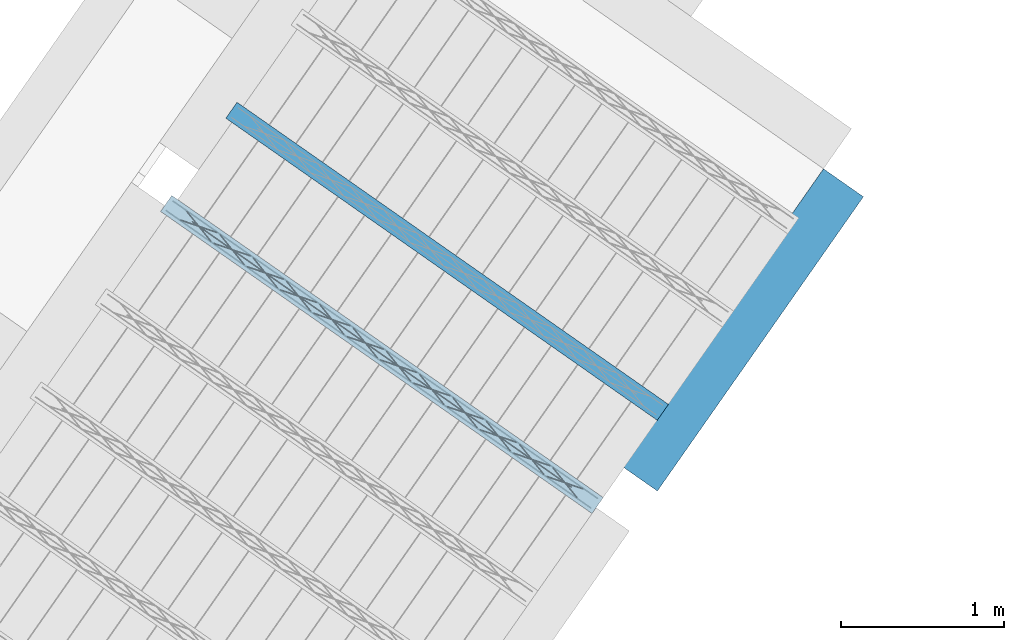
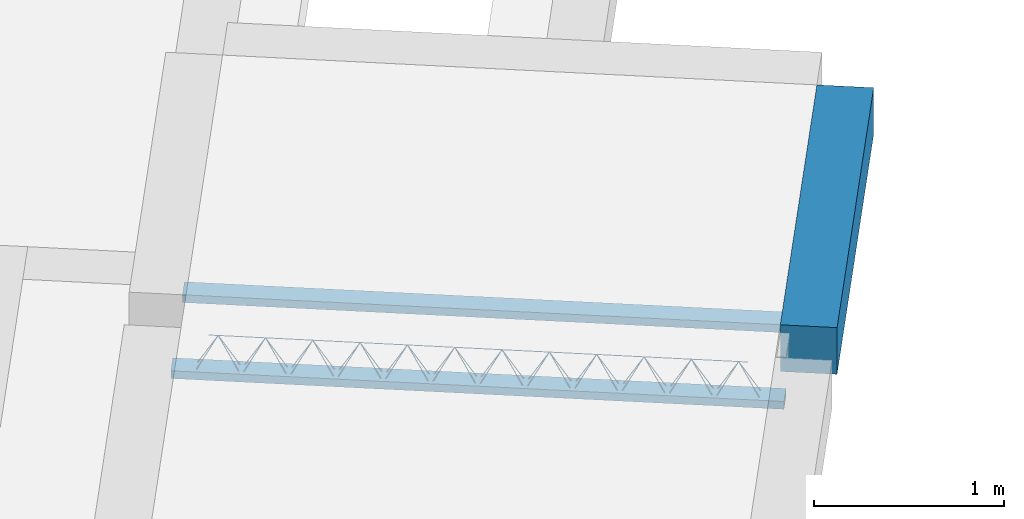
# One storey, part 12 of 46: 3 beams.
"""IFC2X3 building model written with IfcOpenShell, lengths in metres."""

from ifc_helpers import new_model, entity, si_unit, converted_unit, derived_unit, direction, frame, frame_2d, origin, origin_2d_with_axis, place, context, subcontext, project, spatial, rectangle, circle, extrude, material, type_object, element, save


model = new_model("IFC2X3")

# Units and contexts
model_context = context("Model", 3, precision=1e-05, world=origin(), true_north=direction((6.123031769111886e-17, 1.0)))
body_context = subcontext(model_context, "Body", "Model", "MODEL_VIEW")
ifc_project = project(units=[si_unit("LENGTHUNIT", "METRE"), si_unit("AREAUNIT", "SQUARE_METRE"), si_unit("VOLUMEUNIT", "CUBIC_METRE"), converted_unit("PLANEANGLEUNIT", "DEGREE", entity("IfcPlaneAngleMeasure", 0.017453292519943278), si_unit("PLANEANGLEUNIT", "RADIAN"), dimensions=[0, 0, 0, 0, 0, 0, 0]), si_unit("MASSUNIT", "GRAM", prefix="KILO"), derived_unit("MASSDENSITYUNIT", [(si_unit("MASSUNIT", "GRAM", prefix="KILO"), 1), (si_unit("LENGTHUNIT", "METRE"), -3)]), derived_unit("IONCONCENTRATIONUNIT", [(si_unit("MASSUNIT", "GRAM", prefix="KILO"), 1), (si_unit("LENGTHUNIT", "METRE"), -3)]), derived_unit("MOMENTOFINERTIAUNIT", [(si_unit("LENGTHUNIT", "METRE"), 4)]), si_unit("TIMEUNIT", "SECOND"), si_unit("FREQUENCYUNIT", "HERTZ"), si_unit("THERMODYNAMICTEMPERATUREUNIT", "DEGREE_CELSIUS"), derived_unit("THERMALTRANSMITTANCEUNIT", [(si_unit("MASSUNIT", "GRAM", prefix="KILO"), 1), (si_unit("THERMODYNAMICTEMPERATUREUNIT", "KELVIN"), -1), (si_unit("TIMEUNIT", "SECOND"), -3)]), derived_unit("THERMALCONDUCTANCEUNIT", [(si_unit("MASSUNIT", "GRAM", prefix="KILO"), 1), (si_unit("THERMODYNAMICTEMPERATUREUNIT", "KELVIN"), -1), (si_unit("TIMEUNIT", "SECOND"), -3), (si_unit("LENGTHUNIT", "METRE"), 1)]), derived_unit("VOLUMETRICFLOWRATEUNIT", [(si_unit("LENGTHUNIT", "METRE", prefix="DECI"), 3), (si_unit("TIMEUNIT", "SECOND"), -1)]), derived_unit("MASSFLOWRATEUNIT", [(si_unit("MASSUNIT", "GRAM", prefix="KILO"), 1), (si_unit("TIMEUNIT", "SECOND"), -1)]), derived_unit("ROTATIONALFREQUENCYUNIT", [(si_unit("TIMEUNIT", "SECOND"), -1)]), si_unit("ELECTRICCURRENTUNIT", "AMPERE"), si_unit("ELECTRICVOLTAGEUNIT", "VOLT"), si_unit("POWERUNIT", "WATT"), si_unit("FORCEUNIT", "NEWTON", prefix="KILO"), si_unit("ILLUMINANCEUNIT", "LUX"), si_unit("LUMINOUSFLUXUNIT", "LUMEN"), si_unit("LUMINOUSINTENSITYUNIT", "CANDELA"), si_unit("ENERGYUNIT", "JOULE"), derived_unit("USERDEFINED", [(si_unit("MASSUNIT", "GRAM", prefix="KILO"), -1), (si_unit("LENGTHUNIT", "METRE"), -2), (si_unit("TIMEUNIT", "SECOND"), 3), (si_unit("LUMINOUSFLUXUNIT", "LUMEN"), 1)]), derived_unit("USERDEFINED", [(si_unit("MASSUNIT", "GRAM", prefix="KILO"), 1), (si_unit("TIMEUNIT", "SECOND"), -3), (si_unit("LENGTHUNIT", "METRE"), 3), (si_unit("ELECTRICCURRENTUNIT", "AMPERE"), -2)]), derived_unit("SOUNDPOWERUNIT", [(si_unit("MASSUNIT", "GRAM", prefix="KILO"), 1), (si_unit("TIMEUNIT", "SECOND"), -3), (si_unit("LENGTHUNIT", "METRE"), 2)]), derived_unit("SOUNDPRESSUREUNIT", [(si_unit("MASSUNIT", "GRAM", prefix="KILO"), 1), (si_unit("LENGTHUNIT", "METRE"), -1), (si_unit("TIMEUNIT", "SECOND"), -2)]), derived_unit("LINEARVELOCITYUNIT", [(si_unit("LENGTHUNIT", "METRE"), 1), (si_unit("TIMEUNIT", "SECOND"), -1)]), si_unit("PRESSUREUNIT", "PASCAL"), derived_unit("USERDEFINED", [(si_unit("MASSUNIT", "GRAM", prefix="KILO"), 1), (si_unit("LENGTHUNIT", "METRE"), -2), (si_unit("TIMEUNIT", "SECOND"), -2)]), derived_unit("LINEARFORCEUNIT", [(si_unit("MASSUNIT", "GRAM", prefix="KILO"), 1), (si_unit("TIMEUNIT", "SECOND"), -2)]), derived_unit("PLANARFORCEUNIT", [(si_unit("MASSUNIT", "GRAM", prefix="KILO"), 1), (si_unit("LENGTHUNIT", "METRE"), -1), (si_unit("TIMEUNIT", "SECOND"), -2)]), derived_unit("SPECIFICHEATCAPACITYUNIT", [(si_unit("THERMODYNAMICTEMPERATUREUNIT", "KELVIN"), -1), (si_unit("LENGTHUNIT", "METRE"), 2), (si_unit("TIMEUNIT", "SECOND"), -2)]), derived_unit("HEATFLUXDENSITYUNIT", [(si_unit("MASSUNIT", "GRAM", prefix="KILO"), 1), (si_unit("TIMEUNIT", "SECOND"), -3)]), derived_unit("HEATINGVALUEUNIT", [(si_unit("LENGTHUNIT", "METRE"), 2), (si_unit("TIMEUNIT", "SECOND"), -2)]), derived_unit("VAPORPERMEABILITYUNIT", [(si_unit("LENGTHUNIT", "METRE"), -1), (si_unit("TIMEUNIT", "SECOND"), 1)]), derived_unit("DYNAMICVISCOSITYUNIT", [(si_unit("MASSUNIT", "GRAM", prefix="KILO"), 1), (si_unit("TIMEUNIT", "SECOND"), -1), (si_unit("LENGTHUNIT", "METRE"), -1)]), derived_unit("THERMALEXPANSIONCOEFFICIENTUNIT", [(si_unit("THERMODYNAMICTEMPERATUREUNIT", "KELVIN"), -1)]), derived_unit("MODULUSOFELASTICITYUNIT", [(si_unit("MASSUNIT", "GRAM", prefix="KILO"), 1), (si_unit("LENGTHUNIT", "METRE"), -1), (si_unit("TIMEUNIT", "SECOND"), -2)]), derived_unit("ISOTHERMALMOISTURECAPACITYUNIT", [(si_unit("MASSUNIT", "GRAM", prefix="KILO"), -1), (si_unit("LENGTHUNIT", "METRE"), 3)]), derived_unit("MOISTUREDIFFUSIVITYUNIT", [(si_unit("TIMEUNIT", "SECOND"), -1), (si_unit("LENGTHUNIT", "METRE"), 2)]), derived_unit("MASSPERLENGTHUNIT", [(si_unit("MASSUNIT", "GRAM", prefix="KILO"), 1), (si_unit("LENGTHUNIT", "METRE"), -1)]), derived_unit("THERMALRESISTANCEUNIT", [(si_unit("MASSUNIT", "GRAM", prefix="KILO"), -1), (si_unit("TIMEUNIT", "SECOND"), 3), (si_unit("THERMODYNAMICTEMPERATUREUNIT", "KELVIN"), 1)]), derived_unit("ACCELERATIONUNIT", [(si_unit("LENGTHUNIT", "METRE"), 1), (si_unit("TIMEUNIT", "SECOND"), -2)]), derived_unit("ANGULARVELOCITYUNIT", [(si_unit("TIMEUNIT", "SECOND"), -1), (si_unit("PLANEANGLEUNIT", "RADIAN"), 1)]), derived_unit("LINEARSTIFFNESSUNIT", [(si_unit("MASSUNIT", "GRAM", prefix="KILO"), 1), (si_unit("TIMEUNIT", "SECOND"), -2)]), derived_unit("WARPINGCONSTANTUNIT", [(si_unit("LENGTHUNIT", "METRE"), 6)]), derived_unit("LINEARMOMENTUNIT", [(si_unit("MASSUNIT", "GRAM", prefix="KILO"), 1), (si_unit("LENGTHUNIT", "METRE"), 1), (si_unit("TIMEUNIT", "SECOND"), -2)]), derived_unit("TORQUEUNIT", [(si_unit("MASSUNIT", "GRAM", prefix="KILO"), 1), (si_unit("LENGTHUNIT", "METRE"), 2), (si_unit("TIMEUNIT", "SECOND"), -2)])], contexts=[model_context])

# Site, building, storey
site_placement = place(None, origin())
site = spatial("IfcSite", under=ifc_project, at=site_placement, Name="Default", CompositionType="ELEMENT")
building_placement = place(site_placement, origin())
building = spatial("IfcBuilding", under=site, at=building_placement, CompositionType="ELEMENT")
storey_placement = place(building_placement, frame((0.0, 0.0, 99.52000000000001)))
storey = spatial("IfcBuildingStorey", under=building, at=storey_placement, Name="F1", CompositionType="ELEMENT", Elevation=99.52000000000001)

# Beams
beam_type = type_object("IfcBeamType", Name="Vigueta 6 (Paño 4) (Mf = 11.71)", PredefinedType="JOIST")
beam_1_placement = place(storey_placement, origin())
element("IfcBeam", 1, at=beam_1_placement, inside=storey, type_object=beam_type, Name="Vigueta 6 (Paño 4) (Mf = 11.71)", ObjectType="Mf = 11.71", context=body_context, shape_type="SweptSolid", body=[
    extrude(rectangle(XDim=3.240000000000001, YDim=0.12000000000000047, at=frame_2d((-1.3322676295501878e-15, -9.471590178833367e-16), x_axis=(1.0, 0.0))), frame((7.789963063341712, -1.852961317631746, 0.2000000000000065), z_axis=(0.0, 0.0, 1.0), x_axis=(0.8191520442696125, -0.5735764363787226, 0.0)), (0.0, 0.0, 1.0), 0.04999999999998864),
    extrude(circle(Radius=0.0025, at=origin_2d_with_axis()), frame((6.461947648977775, -0.9670227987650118, 0.22500000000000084), z_axis=(0.8191520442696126, -0.5735764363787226, 0.0), x_axis=(-0.5735764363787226, -0.8191520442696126, 0.0)), (0.0, 0.0, 1.0), 3.191999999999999),
    extrude(circle(Radius=0.0025, at=origin_2d_with_axis()), frame((6.622671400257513, -1.0356148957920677, 0.4500000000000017), z_axis=(0.8191520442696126, -0.5735764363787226, 0.0), x_axis=(-0.5735764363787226, -0.8191520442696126, 0.0)), (0.0, 0.0, 1.0), 2.849999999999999),
    extrude(circle(Radius=0.0025, at=origin_2d_with_axis()), frame((8.998042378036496, -2.742815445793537, 0.22500000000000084), z_axis=(-0.3145304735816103, 0.389334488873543, 0.8657304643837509), x_axis=(-0.7778747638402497, -0.6284193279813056, 0.0)), (0.0, 0.0, 1.0), 0.2598961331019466),
    extrude(circle(Radius=0.0025, at=origin_2d_with_axis()), frame((8.793254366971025, -2.599421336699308, 0.22499999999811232), z_axis=(0.47343050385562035, -0.1624017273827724, 0.8657304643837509), x_axis=(-0.3244721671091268, -0.9458952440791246, 0.0)), (0.0, 0.0, 1.0), 0.25989613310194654),
    extrude(circle(Radius=0.0025, at=origin_2d_with_axis()), frame((8.793254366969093, -2.5994213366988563, 0.22500000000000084), z_axis=(-0.3145304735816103, 0.389334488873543, 0.8657304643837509), x_axis=(-0.7778747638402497, -0.6284193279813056, 0.0)), (0.0, 0.0, 1.0), 0.2598961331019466),
    extrude(circle(Radius=0.0025, at=origin_2d_with_axis()), frame((8.588466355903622, -2.4560272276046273, 0.22499999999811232), z_axis=(0.47343050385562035, -0.1624017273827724, 0.8657304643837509), x_axis=(-0.3244721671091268, -0.9458952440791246, 0.0)), (0.0, 0.0, 1.0), 0.25989613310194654),
    extrude(circle(Radius=0.0025, at=origin_2d_with_axis()), frame((8.588466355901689, -2.4560272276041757, 0.22500000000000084), z_axis=(-0.3145304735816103, 0.389334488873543, 0.8657304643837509), x_axis=(-0.7778747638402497, -0.6284193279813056, 0.0)), (0.0, 0.0, 1.0), 0.2598961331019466),
    extrude(circle(Radius=0.0025, at=origin_2d_with_axis()), frame((8.383678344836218, -2.312633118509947, 0.22499999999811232), z_axis=(0.47343050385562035, -0.1624017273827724, 0.8657304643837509), x_axis=(-0.3244721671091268, -0.9458952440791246, 0.0)), (0.0, 0.0, 1.0), 0.25989613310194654),
    extrude(circle(Radius=0.0025, at=origin_2d_with_axis()), frame((8.383678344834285, -2.312633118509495, 0.22500000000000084), z_axis=(-0.3145304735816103, 0.389334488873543, 0.8657304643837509), x_axis=(-0.7778747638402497, -0.6284193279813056, 0.0)), (0.0, 0.0, 1.0), 0.2598961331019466),
    extrude(circle(Radius=0.0025, at=origin_2d_with_axis()), frame((8.178890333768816, -2.1692390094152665, 0.22499999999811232), z_axis=(0.47343050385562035, -0.1624017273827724, 0.8657304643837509), x_axis=(-0.3244721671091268, -0.9458952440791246, 0.0)), (0.0, 0.0, 1.0), 0.25989613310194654),
    extrude(circle(Radius=0.0025, at=origin_2d_with_axis()), frame((8.178890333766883, -2.1692390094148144, 0.22500000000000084), z_axis=(-0.3145304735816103, 0.389334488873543, 0.8657304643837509), x_axis=(-0.7778747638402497, -0.6284193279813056, 0.0)), (0.0, 0.0, 1.0), 0.2598961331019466),
    extrude(circle(Radius=0.0025, at=origin_2d_with_axis()), frame((7.974102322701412, -2.025844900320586, 0.22499999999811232), z_axis=(0.47343050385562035, -0.1624017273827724, 0.8657304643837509), x_axis=(-0.3244721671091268, -0.9458952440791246, 0.0)), (0.0, 0.0, 1.0), 0.25989613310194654),
    extrude(circle(Radius=0.0025, at=origin_2d_with_axis()), frame((7.97410232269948, -2.0258449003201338, 0.22500000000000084), z_axis=(-0.3145304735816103, 0.389334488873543, 0.8657304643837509), x_axis=(-0.7778747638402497, -0.6284193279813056, 0.0)), (0.0, 0.0, 1.0), 0.2598961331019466),
    extrude(circle(Radius=0.0025, at=origin_2d_with_axis()), frame((7.769314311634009, -1.8824507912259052, 0.22499999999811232), z_axis=(0.47343050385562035, -0.1624017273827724, 0.8657304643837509), x_axis=(-0.3244721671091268, -0.9458952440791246, 0.0)), (0.0, 0.0, 1.0), 0.25989613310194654),
    extrude(circle(Radius=0.0025, at=origin_2d_with_axis()), frame((7.769314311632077, -1.8824507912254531, 0.22500000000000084), z_axis=(-0.3145304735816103, 0.389334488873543, 0.8657304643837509), x_axis=(-0.7778747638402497, -0.6284193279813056, 0.0)), (0.0, 0.0, 1.0), 0.2598961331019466),
    extrude(circle(Radius=0.0025, at=origin_2d_with_axis()), frame((7.564526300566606, -1.7390566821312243, 0.22499999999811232), z_axis=(0.47343050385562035, -0.1624017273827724, 0.8657304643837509), x_axis=(-0.3244721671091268, -0.9458952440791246, 0.0)), (0.0, 0.0, 1.0), 0.25989613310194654),
    extrude(circle(Radius=0.0025, at=origin_2d_with_axis()), frame((7.5645263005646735, -1.7390566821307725, 0.22500000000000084), z_axis=(-0.3145304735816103, 0.389334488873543, 0.8657304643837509), x_axis=(-0.7778747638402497, -0.6284193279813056, 0.0)), (0.0, 0.0, 1.0), 0.2598961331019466),
    extrude(circle(Radius=0.0025, at=origin_2d_with_axis()), frame((7.359738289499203, -1.5956625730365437, 0.22499999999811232), z_axis=(0.47343050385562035, -0.1624017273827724, 0.8657304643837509), x_axis=(-0.3244721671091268, -0.9458952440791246, 0.0)), (0.0, 0.0, 1.0), 0.25989613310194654),
    extrude(circle(Radius=0.0025, at=origin_2d_with_axis()), frame((7.35973828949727, -1.5956625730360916, 0.22500000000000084), z_axis=(-0.3145304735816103, 0.389334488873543, 0.8657304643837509), x_axis=(-0.7778747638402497, -0.6284193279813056, 0.0)), (0.0, 0.0, 1.0), 0.2598961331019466),
    extrude(circle(Radius=0.0025, at=origin_2d_with_axis()), frame((7.1549502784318, -1.4522684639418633, 0.22499999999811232), z_axis=(0.47343050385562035, -0.1624017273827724, 0.8657304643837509), x_axis=(-0.3244721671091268, -0.9458952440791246, 0.0)), (0.0, 0.0, 1.0), 0.25989613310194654),
    extrude(circle(Radius=0.0025, at=origin_2d_with_axis()), frame((7.154950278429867, -1.4522684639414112, 0.22500000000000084), z_axis=(-0.3145304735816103, 0.389334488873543, 0.8657304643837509), x_axis=(-0.7778747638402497, -0.6284193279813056, 0.0)), (0.0, 0.0, 1.0), 0.2598961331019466),
    extrude(circle(Radius=0.0025, at=origin_2d_with_axis()), frame((6.950162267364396, -1.3088743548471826, 0.22499999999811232), z_axis=(0.47343050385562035, -0.1624017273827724, 0.8657304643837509), x_axis=(-0.3244721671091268, -0.9458952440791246, 0.0)), (0.0, 0.0, 1.0), 0.25989613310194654),
    extrude(circle(Radius=0.0025, at=origin_2d_with_axis()), frame((6.9501622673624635, -1.3088743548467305, 0.22500000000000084), z_axis=(-0.3145304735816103, 0.389334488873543, 0.8657304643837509), x_axis=(-0.7778747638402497, -0.6284193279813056, 0.0)), (0.0, 0.0, 1.0), 0.2598961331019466),
    extrude(circle(Radius=0.0025, at=origin_2d_with_axis()), frame((6.745374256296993, -1.165480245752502, 0.22499999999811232), z_axis=(0.47343050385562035, -0.1624017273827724, 0.8657304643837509), x_axis=(-0.3244721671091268, -0.9458952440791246, 0.0)), (0.0, 0.0, 1.0), 0.25989613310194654),
    extrude(circle(Radius=0.0025, at=origin_2d_with_axis()), frame((6.745374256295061, -1.16548024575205, 0.22500000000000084), z_axis=(-0.3145304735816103, 0.389334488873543, 0.8657304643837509), x_axis=(-0.7778747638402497, -0.6284193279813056, 0.0)), (0.0, 0.0, 1.0), 0.2598961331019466),
    extrude(circle(Radius=0.0025, at=origin_2d_with_axis()), frame((6.540586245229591, -1.0220861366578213, 0.22499999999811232), z_axis=(0.47343050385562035, -0.1624017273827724, 0.8657304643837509), x_axis=(-0.3244721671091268, -0.9458952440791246, 0.0)), (0.0, 0.0, 1.0), 0.25989613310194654),
    extrude(circle(Radius=0.0025, at=origin_2d_with_axis()), frame((6.503245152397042, -0.9080438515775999, 0.22500000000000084), z_axis=(0.8191520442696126, -0.5735764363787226, 0.0), x_axis=(-0.5735764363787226, -0.8191520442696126, 0.0)), (0.0, 0.0, 1.0), 3.191999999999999),
    extrude(circle(Radius=0.0025, at=origin_2d_with_axis()), frame((9.039339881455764, -2.6838364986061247, 0.22500000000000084), z_axis=(-0.47343050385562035, 0.1624017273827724, 0.8657304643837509), x_axis=(-0.3244721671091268, -0.9458952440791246, 0.0)), (0.0, 0.0, 1.0), 0.25989613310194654),
    extrude(circle(Radius=0.0025, at=origin_2d_with_axis()), frame((8.834551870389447, -2.5404423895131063, 0.22499999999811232), z_axis=(0.3145304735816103, -0.389334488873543, 0.8657304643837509), x_axis=(-0.7778747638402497, -0.6284193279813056, 0.0)), (0.0, 0.0, 1.0), 0.2598961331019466),
    extrude(circle(Radius=0.0025, at=origin_2d_with_axis()), frame((8.83455187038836, -2.5404423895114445, 0.22500000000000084), z_axis=(-0.47343050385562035, 0.1624017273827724, 0.8657304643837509), x_axis=(-0.3244721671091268, -0.9458952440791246, 0.0)), (0.0, 0.0, 1.0), 0.25989613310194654),
    extrude(circle(Radius=0.0025, at=origin_2d_with_axis()), frame((8.629763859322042, -2.397048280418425, 0.22499999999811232), z_axis=(0.3145304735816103, -0.389334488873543, 0.8657304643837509), x_axis=(-0.7778747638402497, -0.6284193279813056, 0.0)), (0.0, 0.0, 1.0), 0.2598961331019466),
    extrude(circle(Radius=0.0025, at=origin_2d_with_axis()), frame((8.629763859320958, -2.397048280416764, 0.22500000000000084), z_axis=(-0.47343050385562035, 0.1624017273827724, 0.8657304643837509), x_axis=(-0.3244721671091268, -0.9458952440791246, 0.0)), (0.0, 0.0, 1.0), 0.25989613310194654),
    extrude(circle(Radius=0.0025, at=origin_2d_with_axis()), frame((8.42497584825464, -2.253654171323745, 0.22499999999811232), z_axis=(0.3145304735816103, -0.389334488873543, 0.8657304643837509), x_axis=(-0.7778747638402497, -0.6284193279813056, 0.0)), (0.0, 0.0, 1.0), 0.2598961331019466),
    extrude(circle(Radius=0.0025, at=origin_2d_with_axis()), frame((8.424975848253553, -2.2536541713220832, 0.22500000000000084), z_axis=(-0.47343050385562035, 0.1624017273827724, 0.8657304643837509), x_axis=(-0.3244721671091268, -0.9458952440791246, 0.0)), (0.0, 0.0, 1.0), 0.25989613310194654),
    extrude(circle(Radius=0.0025, at=origin_2d_with_axis()), frame((8.220187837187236, -2.1102600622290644, 0.22499999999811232), z_axis=(0.3145304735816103, -0.389334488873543, 0.8657304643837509), x_axis=(-0.7778747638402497, -0.6284193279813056, 0.0)), (0.0, 0.0, 1.0), 0.2598961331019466),
    extrude(circle(Radius=0.0025, at=origin_2d_with_axis()), frame((8.22018783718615, -2.110260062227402, 0.22500000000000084), z_axis=(-0.47343050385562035, 0.1624017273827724, 0.8657304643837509), x_axis=(-0.3244721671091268, -0.9458952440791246, 0.0)), (0.0, 0.0, 1.0), 0.25989613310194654),
    extrude(circle(Radius=0.0025, at=origin_2d_with_axis()), frame((8.015399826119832, -1.9668659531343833, 0.22499999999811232), z_axis=(0.3145304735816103, -0.389334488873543, 0.8657304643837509), x_axis=(-0.7778747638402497, -0.6284193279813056, 0.0)), (0.0, 0.0, 1.0), 0.2598961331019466),
    extrude(circle(Radius=0.0025, at=origin_2d_with_axis()), frame((8.015399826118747, -1.9668659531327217, 0.22500000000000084), z_axis=(-0.47343050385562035, 0.1624017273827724, 0.8657304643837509), x_axis=(-0.3244721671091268, -0.9458952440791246, 0.0)), (0.0, 0.0, 1.0), 0.25989613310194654),
    extrude(circle(Radius=0.0025, at=origin_2d_with_axis()), frame((7.81061181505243, -1.823471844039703, 0.22499999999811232), z_axis=(0.3145304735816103, -0.389334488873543, 0.8657304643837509), x_axis=(-0.7778747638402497, -0.6284193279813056, 0.0)), (0.0, 0.0, 1.0), 0.2598961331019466),
    extrude(circle(Radius=0.0025, at=origin_2d_with_axis()), frame((7.810611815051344, -1.823471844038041, 0.22500000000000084), z_axis=(-0.47343050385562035, 0.1624017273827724, 0.8657304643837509), x_axis=(-0.3244721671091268, -0.9458952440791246, 0.0)), (0.0, 0.0, 1.0), 0.25989613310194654),
    extrude(circle(Radius=0.0025, at=origin_2d_with_axis()), frame((7.605823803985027, -1.6800777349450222, 0.22499999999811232), z_axis=(0.3145304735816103, -0.389334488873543, 0.8657304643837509), x_axis=(-0.7778747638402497, -0.6284193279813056, 0.0)), (0.0, 0.0, 1.0), 0.2598961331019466),
    extrude(circle(Radius=0.0025, at=origin_2d_with_axis()), frame((7.605823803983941, -1.6800777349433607, 0.22500000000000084), z_axis=(-0.47343050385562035, 0.1624017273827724, 0.8657304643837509), x_axis=(-0.3244721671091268, -0.9458952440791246, 0.0)), (0.0, 0.0, 1.0), 0.25989613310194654),
    extrude(circle(Radius=0.0025, at=origin_2d_with_axis()), frame((7.401035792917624, -1.5366836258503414, 0.22499999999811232), z_axis=(0.3145304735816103, -0.389334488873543, 0.8657304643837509), x_axis=(-0.7778747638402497, -0.6284193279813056, 0.0)), (0.0, 0.0, 1.0), 0.2598961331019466),
    extrude(circle(Radius=0.0025, at=origin_2d_with_axis()), frame((7.401035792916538, -1.5366836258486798, 0.22500000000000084), z_axis=(-0.47343050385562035, 0.1624017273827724, 0.8657304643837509), x_axis=(-0.3244721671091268, -0.9458952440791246, 0.0)), (0.0, 0.0, 1.0), 0.25989613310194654),
    extrude(circle(Radius=0.0025, at=origin_2d_with_axis()), frame((7.196247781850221, -1.3932895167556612, 0.22499999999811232), z_axis=(0.3145304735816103, -0.389334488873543, 0.8657304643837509), x_axis=(-0.7778747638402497, -0.6284193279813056, 0.0)), (0.0, 0.0, 1.0), 0.2598961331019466),
    extrude(circle(Radius=0.0025, at=origin_2d_with_axis()), frame((7.196247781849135, -1.3932895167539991, 0.22500000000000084), z_axis=(-0.47343050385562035, 0.1624017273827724, 0.8657304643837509), x_axis=(-0.3244721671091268, -0.9458952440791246, 0.0)), (0.0, 0.0, 1.0), 0.25989613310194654),
    extrude(circle(Radius=0.0025, at=origin_2d_with_axis()), frame((6.991459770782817, -1.2498954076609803, 0.22499999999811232), z_axis=(0.3145304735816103, -0.389334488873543, 0.8657304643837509), x_axis=(-0.7778747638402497, -0.6284193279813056, 0.0)), (0.0, 0.0, 1.0), 0.2598961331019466),
    extrude(circle(Radius=0.0025, at=origin_2d_with_axis()), frame((6.991459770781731, -1.2498954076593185, 0.22500000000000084), z_axis=(-0.47343050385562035, 0.1624017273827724, 0.8657304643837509), x_axis=(-0.3244721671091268, -0.9458952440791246, 0.0)), (0.0, 0.0, 1.0), 0.25989613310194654),
    extrude(circle(Radius=0.0025, at=origin_2d_with_axis()), frame((6.786671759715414, -1.1065012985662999, 0.22499999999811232), z_axis=(0.3145304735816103, -0.389334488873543, 0.8657304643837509), x_axis=(-0.7778747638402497, -0.6284193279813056, 0.0)), (0.0, 0.0, 1.0), 0.2598961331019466),
    extrude(circle(Radius=0.0025, at=origin_2d_with_axis()), frame((6.786671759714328, -1.106501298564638, 0.22500000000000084), z_axis=(-0.47343050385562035, 0.1624017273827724, 0.8657304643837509), x_axis=(-0.3244721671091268, -0.9458952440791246, 0.0)), (0.0, 0.0, 1.0), 0.25989613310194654),
    extrude(circle(Radius=0.0025, at=origin_2d_with_axis()), frame((6.5818837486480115, -0.9631071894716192, 0.22499999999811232), z_axis=(0.3145304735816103, -0.389334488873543, 0.8657304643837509), x_axis=(-0.7778747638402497, -0.6284193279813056, 0.0)), (0.0, 0.0, 1.0), 0.2598961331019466),
])
ifc_material = material(Name="Hormigón armado")
beam_2_placement = place(storey_placement, origin())
element("IfcBeam", 2, at=beam_2_placement, inside=storey, material=ifc_material, Name="238295", context=body_context, shape_type="SweptSolid", body=[
    extrude(rectangle(XDim=0.04999999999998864, YDim=0.11999999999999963, at=frame_2d((0.0, 4.128641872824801e-16), x_axis=(1.0, 0.0))), frame((6.864440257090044, -0.3503610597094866, 0.22500000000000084), z_axis=(0.8191520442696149, -0.5735764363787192, 0.0), x_axis=(0.0, 0.0, -1.0)), (0.0, 0.0, 1.0), 3.2399999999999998),
])
beam_3_placement = place(storey_placement, origin())
element("IfcBeam", 3, at=beam_3_placement, inside=storey, material=ifc_material, Name="Viga 2 (30x30)", ObjectType="30x30", context=body_context, shape_type="SweptSolid", body=[
    extrude(rectangle(XDim=0.3000000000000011, YDim=0.29999999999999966, at=frame_2d((0.0, 0.0), x_axis=(0.0, 1.0))), frame((9.361781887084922, -2.6068998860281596, 0.3500000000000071), z_axis=(0.5735764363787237, 0.8191520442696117, 0.0), x_axis=(-0.8191520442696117, 0.5735764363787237, 0.0)), (0.0, 0.0, 1.0), 2.2100317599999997),
])

save(model, "model.ifc")
